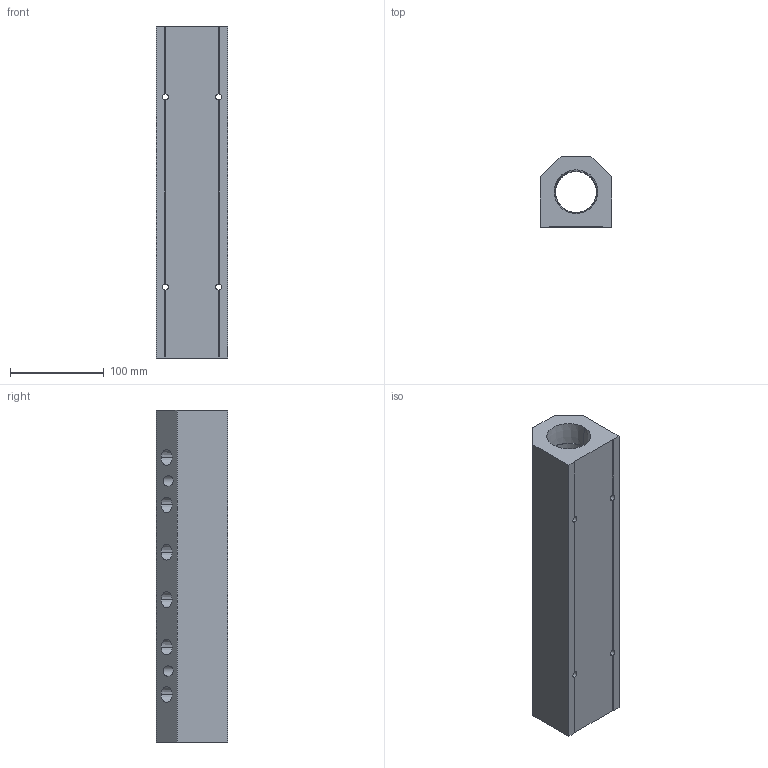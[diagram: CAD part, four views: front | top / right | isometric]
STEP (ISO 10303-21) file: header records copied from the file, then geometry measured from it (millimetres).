
FILE_DESCRIPTION (( 'STEP AP214' ), '1' );
FILE_NAME ('ALM6BD-N6N24-355B.step', '2022-02-07T09:08:26', ( '' ), ( '' ), 'SwSTEP 2.0', 'SolidWorks 2020', '' );
FILE_SCHEMA (( 'AUTOMOTIVE_DESIGN' ));
Length unit declared in the file: millimetre
Products named in the file (1): ALM6BD-N6N24-355B
Bounding box: 76.2 x 76.2 x 355 mm (x, y, z)
Volume: 1278647.5 mm3; surface area: 166588.6 mm2
Topology: 1 solids, 1 shells, 333 faces, 883 edges, 586 vertices
Faces by surface type: plane 206, bspline 81, cone 28, cylinder 18
Entity records: 19300 total; most frequent: CARTESIAN_POINT 8398, ORIENTED_EDGE 1766, DIRECTION 1247, EDGE_CURVE 883, VECTOR 621, LINE 621, VERTEX_POINT 586, EDGE_LOOP 401
